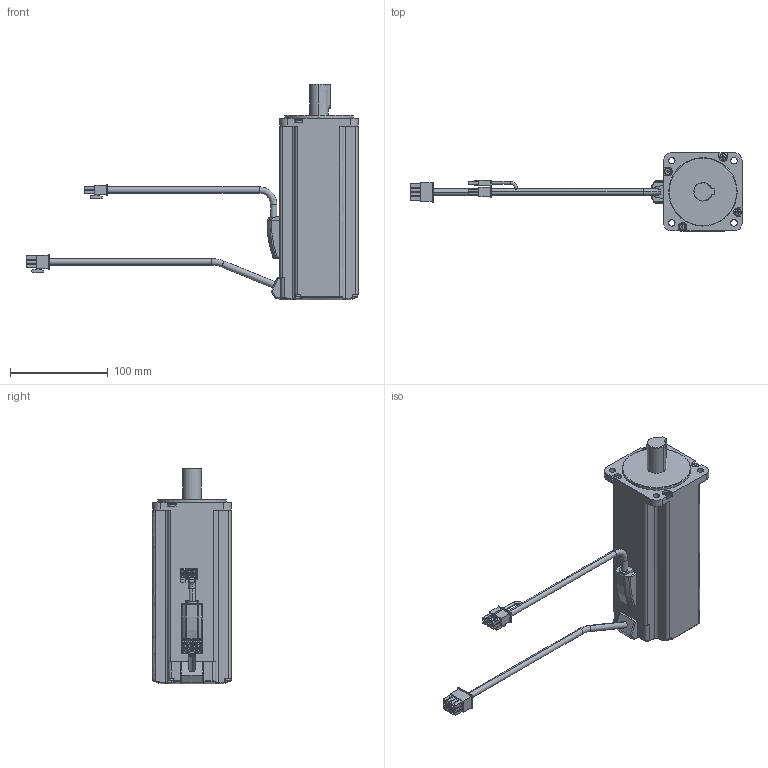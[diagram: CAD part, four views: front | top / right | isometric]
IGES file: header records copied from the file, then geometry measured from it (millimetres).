
Start section:  PTC IGES file: 10001041_rsmz-10ba_brake.igs
Global section: file name: 10001041_rsmz-10ba_brake.igs; native system: Pro/ENGINEER by Parametric Technology Corporation; preprocessor: 2004440; author: Administrator; organization: Unknown; date: 070829.201430; units: millimetre
Bounding box: 339.76 x 80 x 221 mm (x, y, z)
Volume: 1066968.5 mm3; surface area: 90808.6 mm2
Topology: 1 solids, 1 shells, 531 faces, 1337 edges, 868 vertices
Faces by surface type: bspline 381, revolution 150
